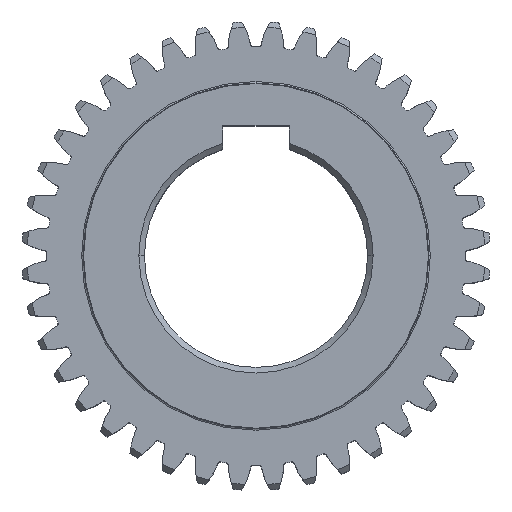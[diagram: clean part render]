
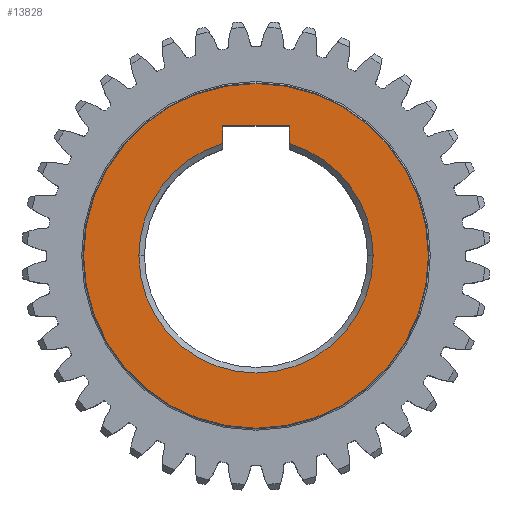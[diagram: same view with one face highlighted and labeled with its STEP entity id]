
A CAD part, top view. The second image highlights one B-rep face of the part: STEP entity #13828.
In plain terms, the highlighted planar face has unit normal (0, 0, 1).
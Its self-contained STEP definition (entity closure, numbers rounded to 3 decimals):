
#617 = CARTESIAN_POINT ( 'NONE',  ( 0., 0., 15. ) ) ;
#634 = AXIS2_PLACEMENT_3D ( 'NONE', #15846, #5276, #2137 ) ;
#842 = DIRECTION ( 'NONE',  ( 1., 0., 0. ) ) ;
#851 = ORIENTED_EDGE ( 'NONE', *, *, #20610, .T. ) ;
#891 = LINE ( 'NONE', #1005, #1440 ) ;
#1005 = CARTESIAN_POINT ( 'NONE',  ( 6., 16.7, 15. ) ) ;
#1440 = VECTOR ( 'NONE', #7707, 1000. ) ;
#1706 = FACE_BOUND ( 'NONE', #21163, .T. ) ;
#2137 = DIRECTION ( 'NONE',  ( 1., 0., 0. ) ) ;
#2150 = ORIENTED_EDGE ( 'NONE', *, *, #8265, .T. ) ;
#3362 = AXIS2_PLACEMENT_3D ( 'NONE', #10475, #18796, #3414 ) ;
#3414 = DIRECTION ( 'NONE',  ( 1., 0., 0. ) ) ;
#3520 = VERTEX_POINT ( 'NONE', #15754 ) ;
#3983 = DIRECTION ( 'NONE',  ( 0., 1., 0. ) ) ;
#4083 = VERTEX_POINT ( 'NONE', #5294 ) ;
#4832 = ORIENTED_EDGE ( 'NONE', *, *, #12239, .T. ) ;
#5188 = VECTOR ( 'NONE', #3983, 1000. ) ;
#5276 = DIRECTION ( 'NONE',  ( 0., 0., 1. ) ) ;
#5294 = CARTESIAN_POINT ( 'NONE',  ( -6., 23.3, 15. ) ) ;
#5381 = PLANE ( 'NONE',  #634 ) ;
#5646 = DIRECTION ( 'NONE',  ( 0., 0., -1. ) ) ;
#6498 = CARTESIAN_POINT ( 'NONE',  ( -30.9, 0., 15. ) ) ;
#6555 = CARTESIAN_POINT ( 'NONE',  ( -6., 20.125, 15. ) ) ;
#6707 = VERTEX_POINT ( 'NONE', #6555 ) ;
#7476 = CARTESIAN_POINT ( 'NONE',  ( -21., 0., 15. ) ) ;
#7707 = DIRECTION ( 'NONE',  ( 0., -1., 0. ) ) ;
#7737 = VERTEX_POINT ( 'NONE', #10906 ) ;
#8265 = EDGE_CURVE ( 'NONE', #7737, #3520, #13166, .T. ) ;
#8480 = EDGE_CURVE ( 'NONE', #21052, #18809, #9193, .T. ) ;
#8582 = ORIENTED_EDGE ( 'NONE', *, *, #19837, .T. ) ;
#8981 = EDGE_CURVE ( 'NONE', #3520, #21448, #16767, .T. ) ;
#9193 = CIRCLE ( 'NONE', #21044, 30.9 ) ;
#9918 = AXIS2_PLACEMENT_3D ( 'NONE', #12461, #19073, #17627 ) ;
#10020 = DIRECTION ( 'NONE',  ( 0., 0., 1. ) ) ;
#10450 = CARTESIAN_POINT ( 'NONE',  ( 0., 0., 15. ) ) ;
#10475 = CARTESIAN_POINT ( 'NONE',  ( 0., 0., 15. ) ) ;
#10906 = CARTESIAN_POINT ( 'NONE',  ( 6., 20.125, 15. ) ) ;
#11127 = VECTOR ( 'NONE', #19018, 1000. ) ;
#11718 = DIRECTION ( 'NONE',  ( 1., 0., 0. ) ) ;
#11741 = ORIENTED_EDGE ( 'NONE', *, *, #8480, .T. ) ;
#12110 = CARTESIAN_POINT ( 'NONE',  ( 0., 0., 15. ) ) ;
#12179 = CARTESIAN_POINT ( 'NONE',  ( 6., 23.3, 15. ) ) ;
#12239 = EDGE_CURVE ( 'NONE', #18892, #7737, #891, .T. ) ;
#12461 = CARTESIAN_POINT ( 'NONE',  ( 0., 0., 15. ) ) ;
#12716 = CARTESIAN_POINT ( 'NONE',  ( 30.9, 0., 15. ) ) ;
#13166 = CIRCLE ( 'NONE', #17443, 21. ) ;
#13438 = CIRCLE ( 'NONE', #20967, 21. ) ;
#13828 = ADVANCED_FACE ( 'NONE', ( #17525, #1706 ), #5381, .T. ) ;
#13878 = LINE ( 'NONE', #12179, #11127 ) ;
#13897 = EDGE_LOOP ( 'NONE', ( #8582, #11741 ) ) ;
#14228 = ORIENTED_EDGE ( 'NONE', *, *, #15248, .T. ) ;
#14261 = DIRECTION ( 'NONE',  ( 0., 0., -1. ) ) ;
#14568 = LINE ( 'NONE', #16358, #5188 ) ;
#14670 = EDGE_CURVE ( 'NONE', #21448, #6707, #13438, .T. ) ;
#15248 = EDGE_CURVE ( 'NONE', #6707, #4083, #14568, .T. ) ;
#15754 = CARTESIAN_POINT ( 'NONE',  ( 21., 0., 15. ) ) ;
#15846 = CARTESIAN_POINT ( 'NONE',  ( 0., 0., 15. ) ) ;
#15880 = ORIENTED_EDGE ( 'NONE', *, *, #8981, .T. ) ;
#16358 = CARTESIAN_POINT ( 'NONE',  ( -6., 16.7, 15. ) ) ;
#16767 = CIRCLE ( 'NONE', #9918, 21. ) ;
#17443 = AXIS2_PLACEMENT_3D ( 'NONE', #617, #5646, #842 ) ;
#17525 = FACE_OUTER_BOUND ( 'NONE', #13897, .T. ) ;
#17627 = DIRECTION ( 'NONE',  ( 1., 0., 0. ) ) ;
#17929 = CARTESIAN_POINT ( 'NONE',  ( 6., 23.3, 15. ) ) ;
#18796 = DIRECTION ( 'NONE',  ( 0., 0., 1. ) ) ;
#18809 = VERTEX_POINT ( 'NONE', #6498 ) ;
#18892 = VERTEX_POINT ( 'NONE', #17929 ) ;
#19018 = DIRECTION ( 'NONE',  ( 1., 0., 0. ) ) ;
#19073 = DIRECTION ( 'NONE',  ( 0., 0., -1. ) ) ;
#19837 = EDGE_CURVE ( 'NONE', #18809, #21052, #21288, .T. ) ;
#20249 = ORIENTED_EDGE ( 'NONE', *, *, #14670, .T. ) ;
#20610 = EDGE_CURVE ( 'NONE', #4083, #18892, #13878, .T. ) ;
#20764 = DIRECTION ( 'NONE',  ( 1., 0., 0. ) ) ;
#20967 = AXIS2_PLACEMENT_3D ( 'NONE', #12110, #14261, #20764 ) ;
#21044 = AXIS2_PLACEMENT_3D ( 'NONE', #10450, #10020, #11718 ) ;
#21052 = VERTEX_POINT ( 'NONE', #12716 ) ;
#21163 = EDGE_LOOP ( 'NONE', ( #4832, #2150, #15880, #20249, #14228, #851 ) ) ;
#21288 = CIRCLE ( 'NONE', #3362, 30.9 ) ;
#21448 = VERTEX_POINT ( 'NONE', #7476 ) ;
